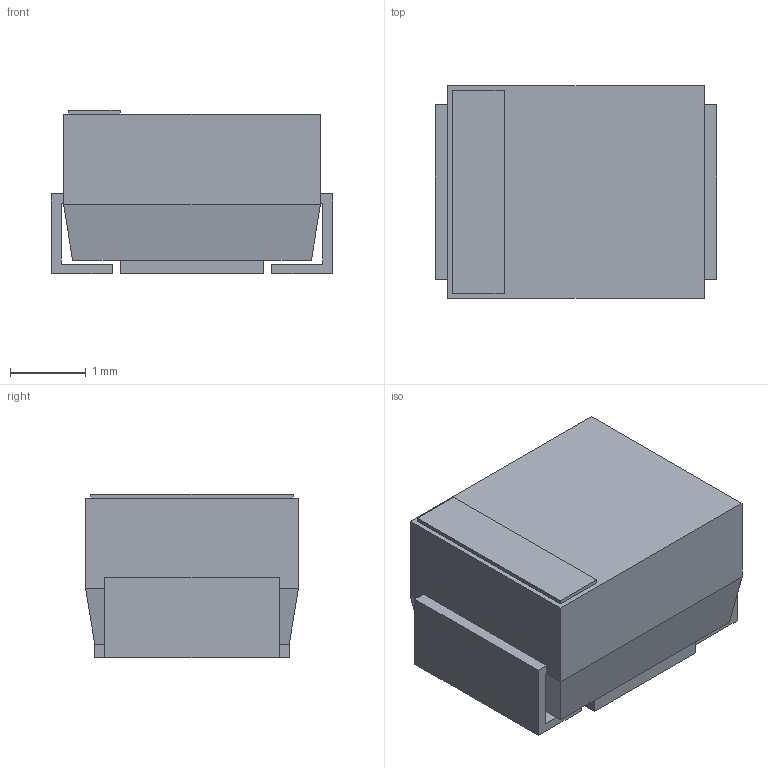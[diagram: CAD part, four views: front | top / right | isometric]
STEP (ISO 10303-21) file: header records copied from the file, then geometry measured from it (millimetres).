
FILE_DESCRIPTION(('STEP AP214'),'1');
FILE_NAME('CAPMP3P7X2P8_2P1N_KEM','2021-09-10T01:59:32',(''),(''),'','','');
FILE_SCHEMA(('AUTOMOTIVE_DESIGN'));
Length unit declared in the file: millimetre
Products named in the file (1): product
Bounding box: 3.7 x 2.8 x 2.15 mm (x, y, z)
Volume: 19.7 mm3; surface area: 64.8 mm2
Topology: 4 solids, 4 shells, 42 faces, 94 edges, 60 vertices
Faces by surface type: plane 42
Entity records: 1127 total; most frequent: ORIENTED_EDGE 188, DIRECTION 180, CARTESIAN_POINT 103, EDGE_CURVE 94, LINE 94, VECTOR 94, VERTEX_POINT 60, AXIS2_PLACEMENT_3D 43
